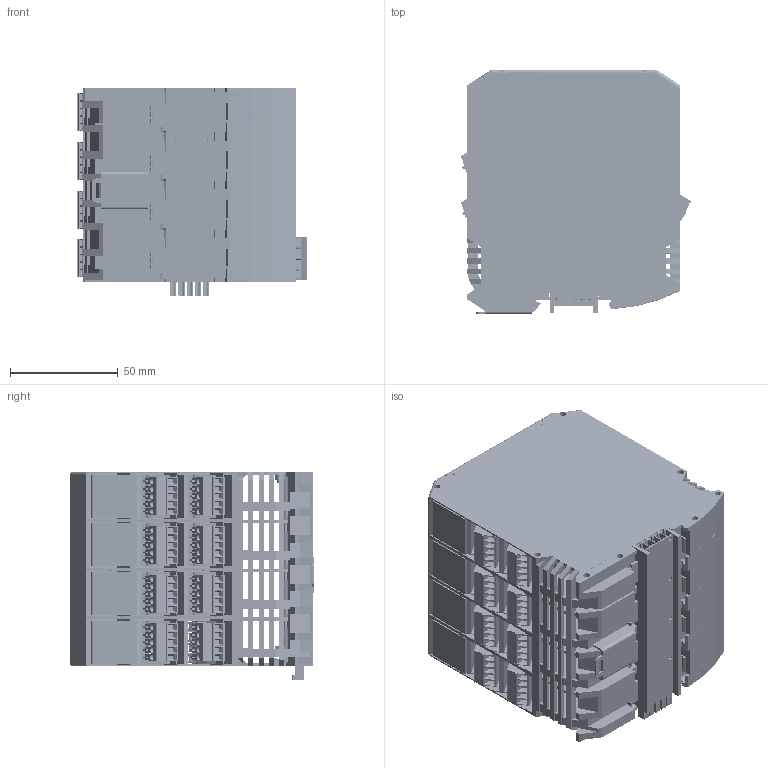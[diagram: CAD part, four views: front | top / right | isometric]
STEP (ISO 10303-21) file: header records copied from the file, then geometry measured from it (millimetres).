
FILE_DESCRIPTION (( 'STEP AP203' ), '1' );
FILE_NAME ('240-8P_STEP.STEP', '2020-09-22T18:13:59', ( '' ), ( '' ), 'SwSTEP 2.0', 'SolidWorks 2020', '' );
FILE_SCHEMA (( 'CONFIG_CONTROL_DESIGN' ));
Length unit declared in the file: millimetre
Products named in the file (26): ME_MAX_45_MT_3-3_H.Select; Fussriegel_17.5_L30_H.Select; 240-8P_STEP; 102-170; 112-089_240-8P; G-106-794; 107-072; G-106-795; ME_MAX_90_DKL_H.Select__00571; Front Panel_240-8P; Phoenix_2707929; ME_MAX_22.5_GEH-R_3-3_H.Select; G-106-791; 107-074; 107-074-DET-01; G-113-247_20160210; 565-15-00; 107-068; G-106-793; ME_MAX_GEH-L-3-3_H.Select; 116-029^Front Panel_240-8P; 112-087_240-8P^240-8P; 107-073
Assembly tree (48 placements, depth 4):
  240-8P_STEP
    107-072
      ME_MAX_45_MT_3-3_H.Select
      ME_MAX_45_MT_3-3_H.Select
      ME_MAX_45_MT_3-3_H.Select
      ME_MAX_GEH-L-3-3_H.Select
      ME_MAX_22.5_GEH-R_3-3_H.Select
      ME_MAX_90_DKL_H.Select__00571
      Fussriegel_17.5_L30_H.Select
    Front Panel_240-8P
      107-073
      102-170
      G-113-247_20160210
      107-074
        107-074-DET-01
      116-029^Front Panel_240-8P
    107-068
      Phoenix_2707929
    Phoenix_2707929  x14
    G-106-793  x8
    G-106-791
    G-106-795  x3
    G-106-794
    112-087_240-8P^240-8P
    112-089_240-8P  x3
  565-15-00
Bounding box: 107.06 x 113.6 x 97 mm (x, y, z)
Volume: 173979.4 mm3; surface area: 225355.8 mm2
Topology: 45 solids, 56 shells, 8775 faces, 26783 edges, 18173 vertices
Faces by surface type: plane 6646, cylinder 1810, bspline 196, cone 111, sphere 12
Entity records: 192278 total; most frequent: CARTESIAN_POINT 39605, ORIENTED_EDGE 31647, DIRECTION 28813, EDGE_CURVE 17213, VECTOR 14377, LINE 14377, VERTEX_POINT 11860, AXIS2_PLACEMENT_3D 7218
